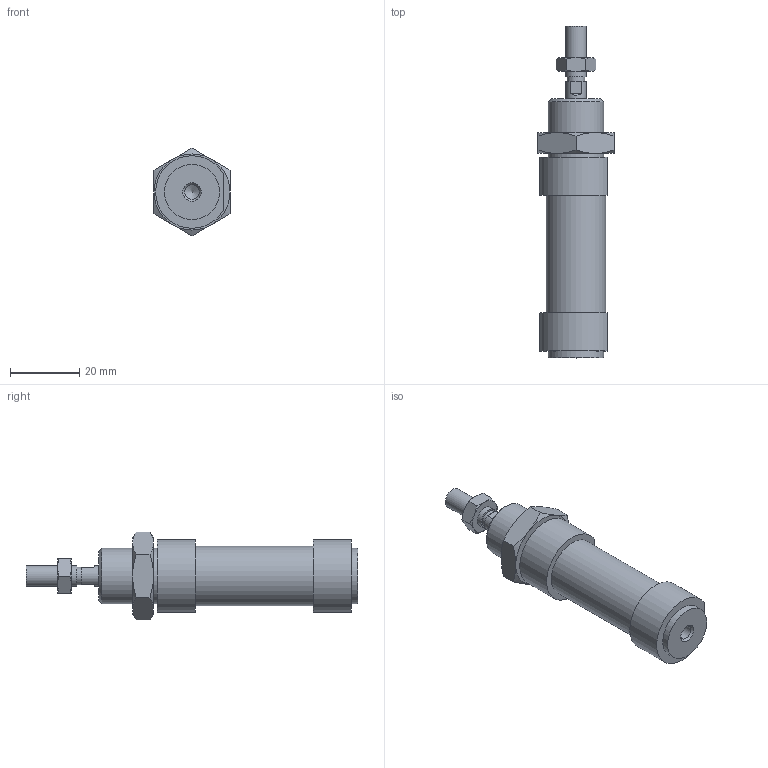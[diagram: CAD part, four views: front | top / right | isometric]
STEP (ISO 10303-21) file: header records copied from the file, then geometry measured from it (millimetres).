
FILE_DESCRIPTION((''),'2;1');
FILE_NAME('I:\Area Tecnica\Disegni\VARIE-3D\Componenti\1280\1281_##_####_#\1281_16_0000.iam.stp','2009-06-04T09:38:19',(''),(''),'Autodesk Inventor 2010','Autodesk Inventor 2010','');
FILE_SCHEMA(('AUTOMOTIVE_DESIGN { 1 0 10303 214 1 1 1 1 }'));
Length unit declared in the file: millimetre
Products named in the file (5): 1281_16_0000; C1281_16_0; S1280_16_0; 1200_16_05; 1200_16_06
Assembly tree (4 placements, depth 2):
  1281_16_0000
    C1281_16_0
    S1280_16_0
    1200_16_05
    1200_16_06
Bounding box: 22 x 96 x 25.4 mm (x, y, z)
Volume: 21152.7 mm3; surface area: 8269.9 mm2
Topology: 4 solids, 4 shells, 83 faces, 169 edges, 102 vertices
Faces by surface type: plane 34, cone 26, bspline 14, cylinder 9
Full cylindrical faces by diameter (mm): 5 x1, 6 x3, 16 x2, 17.2 x1
Entity records: 2370 total; most frequent: CARTESIAN_POINT 636, DIRECTION 314, ORIENTED_EDGE 284, AXIS2_PLACEMENT_3D 142, EDGE_CURVE 142, EDGE_LOOP 116, VERTEX_POINT 96, STYLED_ITEM 87
